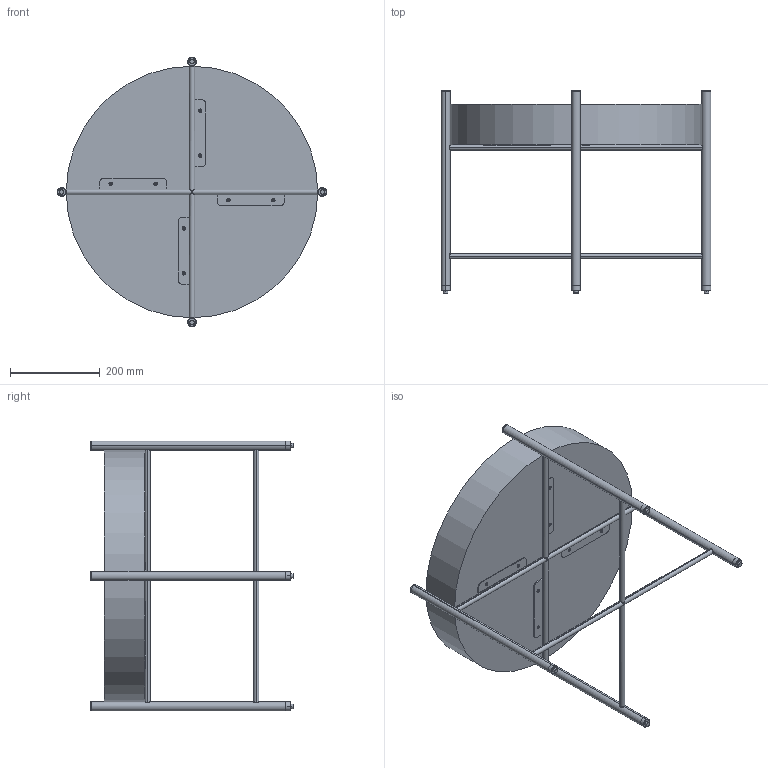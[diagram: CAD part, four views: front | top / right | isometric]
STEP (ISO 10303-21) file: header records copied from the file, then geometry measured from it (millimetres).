
FILE_DESCRIPTION (( 'STEP AP203' ), '1' );
FILE_NAME ('Patrak Table Dia 600 x H450.STEP', '2024-04-05T07:48:01', ( '' ), ( '' ), 'SwSTEP 2.0', 'SolidWorks 2023', '' );
FILE_SCHEMA (( 'CONFIG_CONTROL_DESIGN' ));
Length unit declared in the file: millimetre
Products named in the file (6): Patrak Frame D450_Default<As Machined>; M6x20MM Buffer; Patrak Table Dia 600 x H450; Screw_16_По умолчанию; Metal Strip; Patrak Top Tray
Assembly tree (18 placements, depth 2):
  Patrak Table Dia 600 x H450
    Patrak Frame D450_Default<As Machined>
    M6x20MM Buffer  x4
    Metal Strip  x4
    Patrak Top Tray
    Screw_16_По умолчанию  x8
Bounding box: 600 x 450 x 600 mm (x, y, z)
Volume: 6229959.8 mm3; surface area: 1170539.1 mm2
Topology: 39 solids, 39 shells, 693 faces, 1680 edges, 1032 vertices
Faces by surface type: plane 251, cylinder 194, bspline 128, cone 120
Entity records: 9272 total; most frequent: CARTESIAN_POINT 4445, ORIENTED_EDGE 786, DIRECTION 778, EDGE_CURVE 393, AXIS2_PLACEMENT_3D 309, VERTEX_POINT 255, EDGE_LOOP 210, FACE_OUTER_BOUND 181
